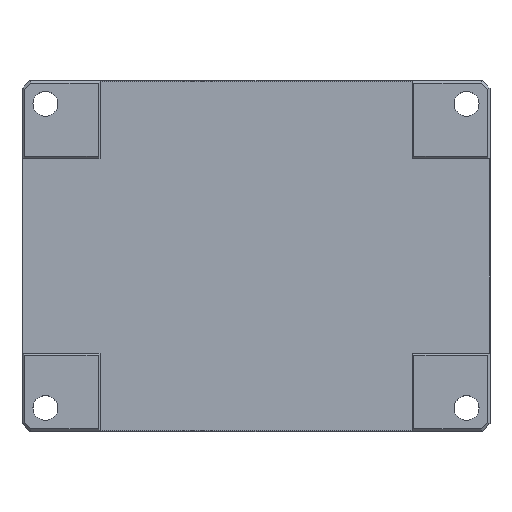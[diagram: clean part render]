
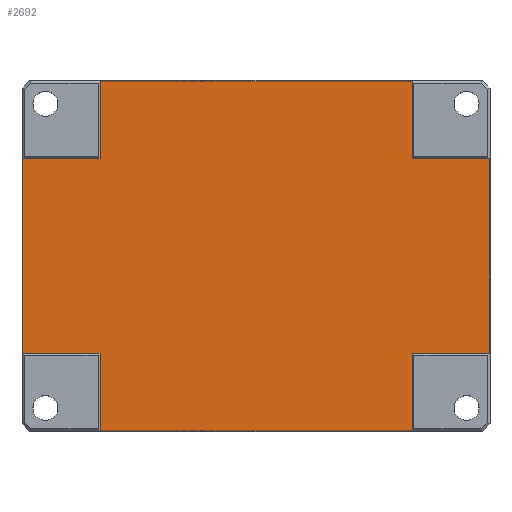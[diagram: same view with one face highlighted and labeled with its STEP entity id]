
A CAD part, top view. The second image highlights one B-rep face of the part: STEP entity #2692.
In plain terms, the highlighted planar face has unit normal (0, 0, 1).
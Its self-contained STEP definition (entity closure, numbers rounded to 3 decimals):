
#326=FACE_OUTER_BOUND('',#497,.T.);
#497=EDGE_LOOP('',(#2195,#2196,#2197,#2198,#2199,#2200,#2201,#2202,#2203,
#2204,#2205,#2206));
#760=LINE('',#4395,#1028);
#767=LINE('',#4409,#1035);
#772=LINE('',#4419,#1040);
#773=LINE('',#4421,#1041);
#774=LINE('',#4423,#1042);
#775=LINE('',#4425,#1043);
#776=LINE('',#4427,#1044);
#777=LINE('',#4429,#1045);
#778=LINE('',#4431,#1046);
#779=LINE('',#4432,#1047);
#780=LINE('',#4434,#1048);
#781=LINE('',#4435,#1049);
#1028=VECTOR('',#3578,10.);
#1035=VECTOR('',#3587,10.);
#1040=VECTOR('',#3596,10.);
#1041=VECTOR('',#3597,10.);
#1042=VECTOR('',#3598,10.);
#1043=VECTOR('',#3599,10.);
#1044=VECTOR('',#3600,10.);
#1045=VECTOR('',#3601,10.);
#1046=VECTOR('',#3602,10.);
#1047=VECTOR('',#3603,10.);
#1048=VECTOR('',#3604,10.);
#1049=VECTOR('',#3605,10.);
#1268=VERTEX_POINT('',#4392);
#1269=VERTEX_POINT('',#4394);
#1274=VERTEX_POINT('',#4406);
#1275=VERTEX_POINT('',#4408);
#1278=VERTEX_POINT('',#4418);
#1279=VERTEX_POINT('',#4420);
#1280=VERTEX_POINT('',#4422);
#1281=VERTEX_POINT('',#4424);
#1282=VERTEX_POINT('',#4426);
#1283=VERTEX_POINT('',#4428);
#1284=VERTEX_POINT('',#4430);
#1285=VERTEX_POINT('',#4433);
#1609=EDGE_CURVE('',#1268,#1269,#760,.T.);
#1616=EDGE_CURVE('',#1274,#1275,#767,.T.);
#1621=EDGE_CURVE('',#1274,#1278,#772,.T.);
#1622=EDGE_CURVE('',#1278,#1279,#773,.T.);
#1623=EDGE_CURVE('',#1280,#1279,#774,.T.);
#1624=EDGE_CURVE('',#1280,#1281,#775,.T.);
#1625=EDGE_CURVE('',#1281,#1282,#776,.T.);
#1626=EDGE_CURVE('',#1283,#1282,#777,.T.);
#1627=EDGE_CURVE('',#1283,#1284,#778,.T.);
#1628=EDGE_CURVE('',#1284,#1269,#779,.T.);
#1629=EDGE_CURVE('',#1268,#1285,#780,.T.);
#1630=EDGE_CURVE('',#1285,#1275,#781,.T.);
#2195=ORIENTED_EDGE('',*,*,#1616,.F.);
#2196=ORIENTED_EDGE('',*,*,#1621,.T.);
#2197=ORIENTED_EDGE('',*,*,#1622,.T.);
#2198=ORIENTED_EDGE('',*,*,#1623,.F.);
#2199=ORIENTED_EDGE('',*,*,#1624,.T.);
#2200=ORIENTED_EDGE('',*,*,#1625,.T.);
#2201=ORIENTED_EDGE('',*,*,#1626,.F.);
#2202=ORIENTED_EDGE('',*,*,#1627,.T.);
#2203=ORIENTED_EDGE('',*,*,#1628,.T.);
#2204=ORIENTED_EDGE('',*,*,#1609,.F.);
#2205=ORIENTED_EDGE('',*,*,#1629,.T.);
#2206=ORIENTED_EDGE('',*,*,#1630,.T.);
#2565=PLANE('',#2956);
#2692=ADVANCED_FACE('',(#326),#2565,.T.);
#2956=AXIS2_PLACEMENT_3D('',#4417,#3594,#3595);
#3578=DIRECTION('',(-1.,0.,0.));
#3587=DIRECTION('',(0.,-1.,0.));
#3594=DIRECTION('center_axis',(0.,0.,
1.));
#3595=DIRECTION('ref_axis',(1.,0.,0.));
#3596=DIRECTION('',(-1.,0.,0.));
#3597=DIRECTION('',(0.,1.,0.));
#3598=DIRECTION('',(1.,0.,0.));
#3599=DIRECTION('',(0.,-1.,0.));
#3600=DIRECTION('',(-1.,0.,0.));
#3601=DIRECTION('',(0.,1.,0.));
#3602=DIRECTION('',(1.,0.,0.));
#3603=DIRECTION('',(0.,-1.,0.));
#3604=DIRECTION('',(0.,1.,0.));
#3605=DIRECTION('',(1.,0.,0.));
#4392=CARTESIAN_POINT('',(40.,-44.8,32.5));
#4394=CARTESIAN_POINT('',(-40.,-44.8,32.5));
#4395=CARTESIAN_POINT('',(15.,-44.8,32.5));
#4406=CARTESIAN_POINT('',(59.8,25.,32.5));
#4408=CARTESIAN_POINT('',(59.8,-25.,32.5));
#4409=CARTESIAN_POINT('',(59.8,11.25,32.5));
#4417=CARTESIAN_POINT('Origin',(0.,0.,
32.5));
#4418=CARTESIAN_POINT('',(40.,25.,32.5));
#4419=CARTESIAN_POINT('',(60.,25.,32.5));
#4420=CARTESIAN_POINT('',(40.,44.8,32.5));
#4421=CARTESIAN_POINT('',(40.,25.,32.5));
#4422=CARTESIAN_POINT('',(-40.,44.8,32.5));
#4423=CARTESIAN_POINT('',(-15.,44.8,32.5));
#4424=CARTESIAN_POINT('',(-40.,25.,32.5));
#4425=CARTESIAN_POINT('',(-40.,45.,32.5));
#4426=CARTESIAN_POINT('',(-59.8,25.,32.5));
#4427=CARTESIAN_POINT('',(-40.,25.,32.5));
#4428=CARTESIAN_POINT('',(-59.8,-25.,32.5));
#4429=CARTESIAN_POINT('',(-59.8,-11.25,32.5));
#4430=CARTESIAN_POINT('',(-40.,-25.,32.5));
#4431=CARTESIAN_POINT('',(-60.,-25.,32.5));
#4432=CARTESIAN_POINT('',(-40.,-25.,32.5));
#4433=CARTESIAN_POINT('',(40.,-25.,32.5));
#4434=CARTESIAN_POINT('',(40.,-45.,32.5));
#4435=CARTESIAN_POINT('',(40.,-25.,32.5));
